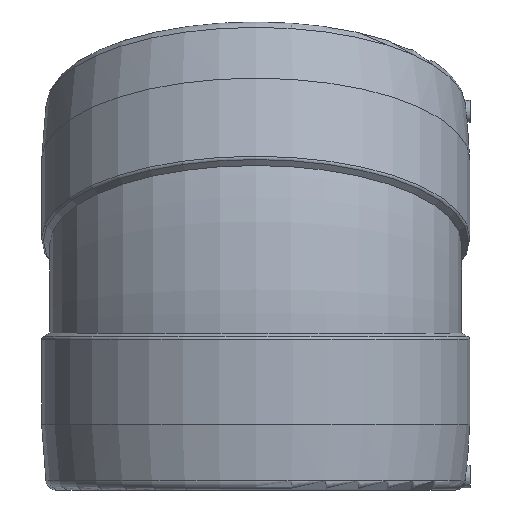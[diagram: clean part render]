
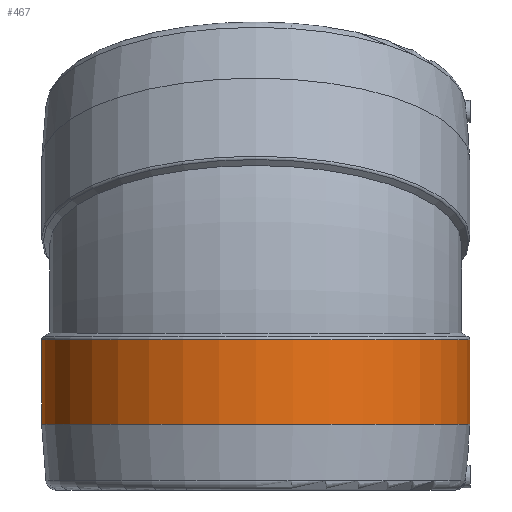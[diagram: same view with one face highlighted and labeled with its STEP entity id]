
A CAD part, left-side view. The second image highlights one B-rep face of the part: STEP entity #467.
In plain terms, the highlighted cylindrical face has radius 195 mm (diameter 390 mm), a full revolution.
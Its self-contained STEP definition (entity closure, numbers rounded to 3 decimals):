
#54=CYLINDRICAL_SURFACE('',#533,195.);
#99=ORIENTED_EDGE('',*,*,#185,.T.);
#100=ORIENTED_EDGE('',*,*,#183,.F.);
#183=EDGE_CURVE('',#233,#233,#275,.T.);
#185=EDGE_CURVE('',#235,#235,#277,.T.);
#233=VERTEX_POINT('',#829);
#235=VERTEX_POINT('',#835);
#275=CIRCLE('',#530,195.);
#277=CIRCLE('',#534,195.);
#328=EDGE_LOOP('',(#99));
#329=EDGE_LOOP('',(#100));
#399=FACE_BOUND('',#328,.T.);
#400=FACE_BOUND('',#329,.T.);
#467=ADVANCED_FACE('',(#399,#400),#54,.T.);
#530=AXIS2_PLACEMENT_3D('',#828,#634,#635);
#533=AXIS2_PLACEMENT_3D('',#833,#640,#641);
#534=AXIS2_PLACEMENT_3D('',#834,#642,#643);
#634=DIRECTION('',(0.,0.,-1.));
#635=DIRECTION('',(-1.,0.,0.));
#640=DIRECTION('',(0.,0.,-1.));
#641=DIRECTION('',(-1.,0.,0.));
#642=DIRECTION('',(0.,0.,-1.));
#643=DIRECTION('',(-1.,0.,0.));
#828=CARTESIAN_POINT('',(0.,0.,-125.));
#829=CARTESIAN_POINT('',(-195.,0.,-125.));
#833=CARTESIAN_POINT('',(0.,0.,-57.));
#834=CARTESIAN_POINT('',(0.,0.,-48.));
#835=CARTESIAN_POINT('',(-195.,0.,-48.));
